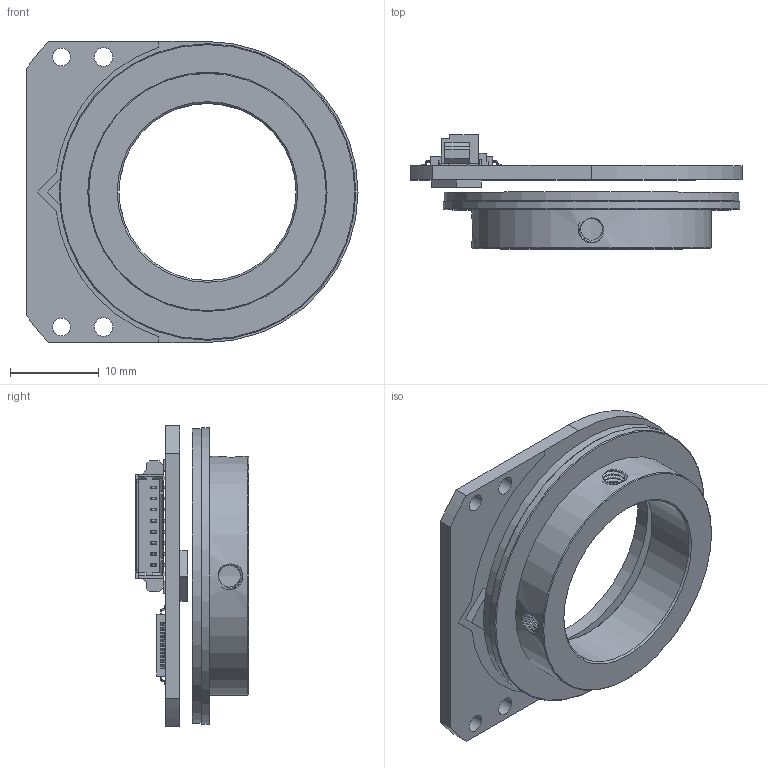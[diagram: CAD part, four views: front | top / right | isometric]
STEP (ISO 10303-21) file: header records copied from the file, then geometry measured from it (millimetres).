
FILE_DESCRIPTION (( 'STEP AP203' ), '1' );
FILE_NAME ('eCoder_20.STEP', '2022-12-28T09:19:19', ( 'Windows User' ), ( 'P R C' ), 'SwSTEP 2.0', 'SolidWorks 2021', '' );
FILE_SCHEMA (( 'CONFIG_CONTROL_DESIGN' ));
Length unit declared in the file: millimetre
Products named in the file (1): eCoder_20
Bounding box: 37.5 x 12.85 x 34 mm (x, y, z)
Volume: 3570.9 mm3; surface area: 5690.5 mm2
Topology: 4 solids, 4 shells, 921 faces, 2415 edges, 1549 vertices
Faces by surface type: plane 743, cylinder 166, cone 6, bspline 6
Full cylindrical faces by diameter (mm): 2 x2, 2.1 x2, 20 x1, 21 x2, 22 x1, 27 x1, 33.3 x1, 33.5 x1
Entity records: 30020 total; most frequent: CARTESIAN_POINT 7583, ORIENTED_EDGE 4780, DIRECTION 4387, EDGE_CURVE 2390, VECTOR 1885, LINE 1885, VERTEX_POINT 1541, AXIS2_PLACEMENT_3D 1251
